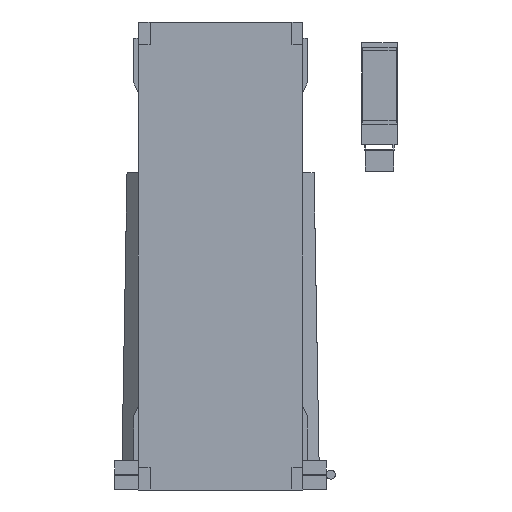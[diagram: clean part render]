
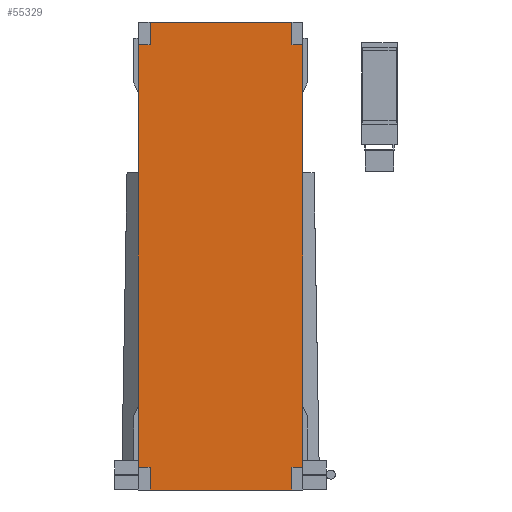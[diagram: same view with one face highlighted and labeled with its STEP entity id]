
A CAD part, front view. The second image highlights one B-rep face of the part: STEP entity #55329.
In plain terms, the highlighted planar face has unit normal (0, -1, 0).
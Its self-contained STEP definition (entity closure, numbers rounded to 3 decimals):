
#18429=DIRECTION('',(0.,0.,1.));
#18430=VECTOR('',#18429,187.813);
#18431=CARTESIAN_POINT('',(-36.5,-6.,-130.813));
#18432=LINE('',#18431,#18430);
#18469=DIRECTION('',(1.,0.,0.));
#18470=VECTOR('',#18469,5.225);
#18471=CARTESIAN_POINT('',(-36.5,-6.,57.));
#18472=LINE('',#18471,#18470);
#18473=DIRECTION('',(1.,0.,0.));
#18474=VECTOR('',#18473,4.775);
#18475=CARTESIAN_POINT('',(31.725,-6.,57.));
#18476=LINE('',#18475,#18474);
#18545=DIRECTION('',(-1.,0.,0.));
#18546=VECTOR('',#18545,63.);
#18547=CARTESIAN_POINT('',(31.725,-6.,67.));
#18548=LINE('',#18547,#18546);
#18565=DIRECTION('',(1.,0.,0.));
#18566=VECTOR('',#18565,5.225);
#18567=CARTESIAN_POINT('',(-36.5,-6.,-130.813));
#18568=LINE('',#18567,#18566);
#18569=DIRECTION('',(0.,0.,-1.));
#18570=VECTOR('',#18569,10.);
#18571=CARTESIAN_POINT('',(31.725,-6.,67.));
#18572=LINE('',#18571,#18570);
#18573=DIRECTION('',(1.,0.,0.));
#18574=VECTOR('',#18573,4.775);
#18575=CARTESIAN_POINT('',(31.725,-6.,-130.813));
#18576=LINE('',#18575,#18574);
#18577=DIRECTION('',(0.,0.,-1.));
#18578=VECTOR('',#18577,10.);
#18579=CARTESIAN_POINT('',(31.725,-6.,-130.813));
#18580=LINE('',#18579,#18578);
#18585=DIRECTION('',(0.,0.,-1.));
#18586=VECTOR('',#18585,10.);
#18587=CARTESIAN_POINT('',(-31.275,-6.,67.));
#18588=LINE('',#18587,#18586);
#18593=DIRECTION('',(0.,0.,-1.));
#18594=VECTOR('',#18593,10.);
#18595=CARTESIAN_POINT('',(-31.275,-6.,-130.813));
#18596=LINE('',#18595,#18594);
#18637=DIRECTION('',(0.,0.,1.));
#18638=VECTOR('',#18637,187.813);
#18639=CARTESIAN_POINT('',(36.5,-6.,-130.813));
#18640=LINE('',#18639,#18638);
#18733=DIRECTION('',(-1.,0.,0.));
#18734=VECTOR('',#18733,63.);
#18735=CARTESIAN_POINT('',(31.725,-6.,-140.813));
#18736=LINE('',#18735,#18734);
#27815=CARTESIAN_POINT('',(31.725,-6.,67.));
#27817=VERTEX_POINT('',#27815);
#27818=CARTESIAN_POINT('',(-31.275,-6.,67.));
#27819=VERTEX_POINT('',#27818);
#27823=CARTESIAN_POINT('',(31.725,-6.,-140.813));
#27825=VERTEX_POINT('',#27823);
#27826=CARTESIAN_POINT('',(-31.275,-6.,-140.813));
#27827=VERTEX_POINT('',#27826);
#27839=CARTESIAN_POINT('',(36.5,-6.,57.));
#27841=VERTEX_POINT('',#27839);
#27843=CARTESIAN_POINT('',(36.5,-6.,-130.813));
#27845=VERTEX_POINT('',#27843);
#27847=CARTESIAN_POINT('',(31.725,-6.,57.));
#27849=VERTEX_POINT('',#27847);
#27851=CARTESIAN_POINT('',(31.725,-6.,-130.813));
#27853=VERTEX_POINT('',#27851);
#27854=CARTESIAN_POINT('',(-36.5,-6.,57.));
#27855=CARTESIAN_POINT('',(-31.275,-6.,57.));
#27856=VERTEX_POINT('',#27854);
#27857=VERTEX_POINT('',#27855);
#27858=CARTESIAN_POINT('',(-36.5,-6.,-130.813));
#27859=CARTESIAN_POINT('',(-31.275,-6.,-130.813));
#27860=VERTEX_POINT('',#27858);
#27861=VERTEX_POINT('',#27859);
#55304=CARTESIAN_POINT('',(31.725,-6.,67.));
#55305=DIRECTION('',(0.,1.,0.));
#55306=DIRECTION('',(-1.,0.,0.));
#55307=AXIS2_PLACEMENT_3D('',#55304,#55305,#55306);
#55308=PLANE('',#55307);
#55310=ORIENTED_EDGE('',*,*,#55309,.F.);
#55312=ORIENTED_EDGE('',*,*,#55311,.F.);
#55313=ORIENTED_EDGE('',*,*,#55133,.T.);
#55314=ORIENTED_EDGE('',*,*,#55174,.T.);
#55316=ORIENTED_EDGE('',*,*,#55315,.F.);
#55317=ORIENTED_EDGE('',*,*,#55263,.F.);
#55318=ORIENTED_EDGE('',*,*,#55282,.T.);
#55319=ORIENTED_EDGE('',*,*,#55187,.T.);
#55321=ORIENTED_EDGE('',*,*,#55320,.F.);
#55323=ORIENTED_EDGE('',*,*,#55322,.F.);
#55324=ORIENTED_EDGE('',*,*,#55299,.T.);
#55326=ORIENTED_EDGE('',*,*,#55325,.T.);
#55327=EDGE_LOOP('',(#55310,#55312,#55313,#55314,#55316,#55317,#55318,#55319,
#55321,#55323,#55324,#55326));
#55328=FACE_OUTER_BOUND('',#55327,.F.);
#55329=ADVANCED_FACE('',(#55328),#55308,.F.);
#55133=EDGE_CURVE('',#27860,#27856,#18432,.T.);
#55174=EDGE_CURVE('',#27856,#27857,#18472,.T.);
#55187=EDGE_CURVE('',#27849,#27841,#18476,.T.);
#55263=EDGE_CURVE('',#27817,#27819,#18548,.T.);
#55282=EDGE_CURVE('',#27817,#27849,#18572,.T.);
#55299=EDGE_CURVE('',#27853,#27825,#18580,.T.);
#55309=EDGE_CURVE('',#27861,#27827,#18596,.T.);
#55311=EDGE_CURVE('',#27860,#27861,#18568,.T.);
#55315=EDGE_CURVE('',#27819,#27857,#18588,.T.);
#55320=EDGE_CURVE('',#27845,#27841,#18640,.T.);
#55322=EDGE_CURVE('',#27853,#27845,#18576,.T.);
#55325=EDGE_CURVE('',#27825,#27827,#18736,.T.);
